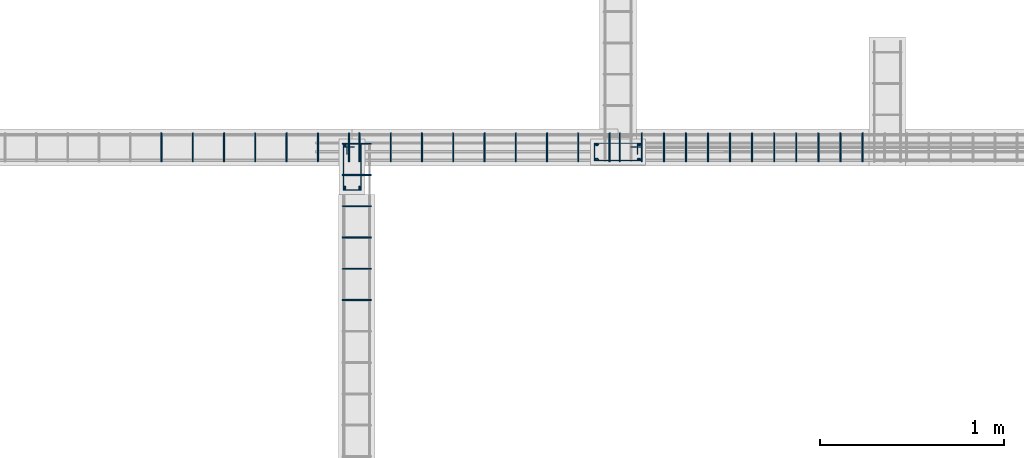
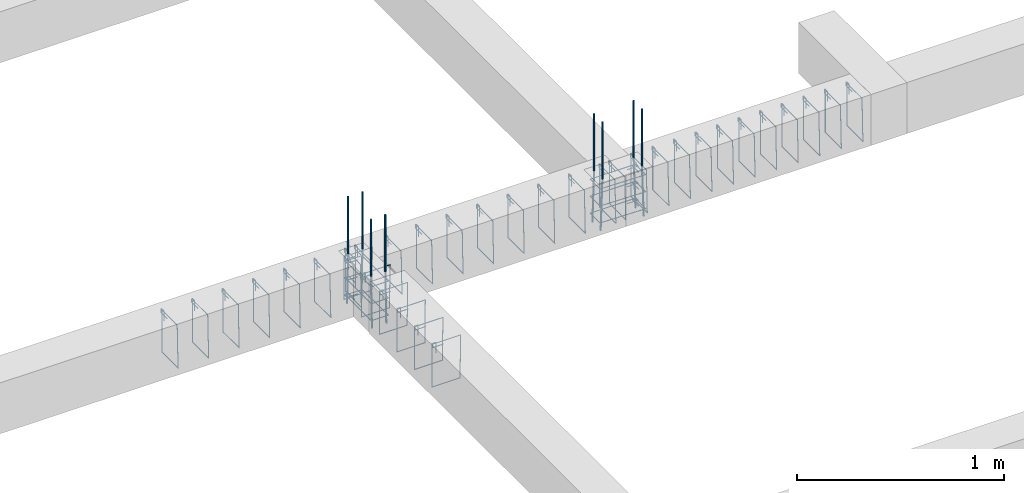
# One storey, part 86 of 150: 48 reinforcing bars.
"""IFC4 building model written with IfcOpenShell, lengths in centimetres."""

from ifc_helpers import new_model, entity, si_unit, derived_unit, frame, origin_with_axes, place, context, project, spatial, source, transform, mapped, element, save


model = new_model("IFC4")

# Units and contexts
model_context = context("Model", 3, precision=1e-05, world=origin_with_axes(), identifier="Body")
ifc_project = project(units=[si_unit("LENGTHUNIT", "METRE", prefix="CENTI"), si_unit("VOLUMEUNIT", "CUBIC_METRE"), si_unit("AREAUNIT", "SQUARE_METRE"), si_unit("POWERUNIT", "WATT"), si_unit("LUMINOUSFLUXUNIT", "LUMEN"), si_unit("ELECTRICCURRENTUNIT", "AMPERE"), si_unit("PRESSUREUNIT", "PASCAL", prefix="KILO"), si_unit("MASSUNIT", "GRAM", prefix="KILO"), si_unit("PLANEANGLEUNIT", "RADIAN"), derived_unit("VOLUMETRICFLOWRATEUNIT", [(si_unit("LENGTHUNIT", "METRE"), 3), (si_unit("TIMEUNIT", "SECOND"), -1)])], contexts=[model_context])

# Site, building, storey
site_placement = place(None, frame((-4000.0, 0.0, 0.0), z_axis=(0.0, 0.0, 1.0), x_axis=(1.0, 0.0, 0.0)))
site = spatial("IfcSite", under=ifc_project, at=site_placement, Name="PADRÃO")
building_placement = place(site_placement, frame((0.0, 0.0, -14.0)))
building = spatial("IfcBuilding", under=site, at=building_placement, Name="CRECHE PRÉ-ESCOLA TIPO 2")
placement = place(building_placement, origin_with_axes())
storey_placement = place(placement, frame((0.0, 0.0, 30.0), z_axis=(0.0, 0.0, 1.0), x_axis=(1.0, 0.0, 0.0)))
storey = spatial("IfcBuildingStorey", under=building, at=storey_placement, Name="VIGA BALDRAME", CompositionType="ELEMENT", Elevation=16.0)

# Reinforcing bars
shared_shape_1 = source(origin_with_axes(), model_context, "Body", "AdvancedSweptSolid", [
    entity("IfcSweptDiskSolid", entity("IfcCompositeCurve", [entity("IfcCompositeCurveSegment", "CONTINUOUS", True, entity("IfcPolyline", [entity("IfcCartesianPoint", [4.25, 21.75, 0.0]), entity("IfcCartesianPoint", [4.25, 27.75, 0.0])])), entity("IfcCompositeCurveSegment", "CONTINUOUS", True, entity("IfcPolyline", [entity("IfcCartesianPoint", [4.25, 27.75, 0.0]), entity("IfcCartesianPoint", [2.25, 27.75, 0.0])])), entity("IfcCompositeCurveSegment", "CONTINUOUS", True, entity("IfcPolyline", [entity("IfcCartesianPoint", [2.25, 27.75, 0.0]), entity("IfcCartesianPoint", [2.25, 2.25, 0.0])])), entity("IfcCompositeCurveSegment", "CONTINUOUS", True, entity("IfcPolyline", [entity("IfcCartesianPoint", [2.25, 2.25, 0.0]), entity("IfcCartesianPoint", [11.75, 2.25, 0.0])])), entity("IfcCompositeCurveSegment", "CONTINUOUS", True, entity("IfcPolyline", [entity("IfcCartesianPoint", [11.75, 2.25, 0.0]), entity("IfcCartesianPoint", [11.75, 27.75, -0.5])])), entity("IfcCompositeCurveSegment", "CONTINUOUS", True, entity("IfcPolyline", [entity("IfcCartesianPoint", [11.75, 27.75, -0.5]), entity("IfcCartesianPoint", [2.25, 27.75, -0.5])])), entity("IfcCompositeCurveSegment", "CONTINUOUS", True, entity("IfcPolyline", [entity("IfcCartesianPoint", [2.25, 27.75, -0.5]), entity("IfcCartesianPoint", [2.25, 25.75, -0.5])])), entity("IfcCompositeCurveSegment", "CONTINUOUS", True, entity("IfcPolyline", [entity("IfcCartesianPoint", [2.25, 25.75, -0.5]), entity("IfcCartesianPoint", [8.25, 25.75, -0.5])]))], False), 0.25),
])
for number, where, z_axis, x_axis, name in (
    (1, (2516.5, 3174.52, -25.0), (0.0, 0.0, 1.0), (1.0, 0.0, 0.0), "P53 - Estribo"),
    (2, (2516.5, 3174.52, -15.0), (0.0, 0.0, 1.0), (1.0, 0.0, 0.0), "P53 - Estribo"),
    (3, (2516.5, 3174.52, -5.0), (0.0, 0.0, 1.0), (1.0, 0.0, 0.0), "P53 - Estribo"),
):
    element("IfcReinforcingBar", number, at=place(storey_placement, frame(where, z_axis=z_axis, x_axis=x_axis)), inside=storey, Name=name, BarLength=0.0, CrossSectionArea=1.9634954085e-05, NominalDiameter=0.5, PredefinedType="MAIN", context=model_context, shape_type="MappedRepresentation", body=[
        mapped(shared_shape_1, transform((0.0, 0.0, 0.0), scale=1.0)),
    ])
shared_shape_2 = source(origin_with_axes(), model_context, "Body", "AdvancedSweptSolid", [
    entity("IfcSweptDiskSolid", entity("IfcCompositeCurve", [entity("IfcCompositeCurveSegment", "CONTINUOUS", True, entity("IfcPolyline", [entity("IfcCartesianPoint", [4.25, 21.75, 0.0]), entity("IfcCartesianPoint", [4.25, 27.75, 0.0])])), entity("IfcCompositeCurveSegment", "CONTINUOUS", True, entity("IfcPolyline", [entity("IfcCartesianPoint", [4.25, 27.75, 0.0]), entity("IfcCartesianPoint", [2.25, 27.75, 0.0])])), entity("IfcCompositeCurveSegment", "CONTINUOUS", True, entity("IfcPolyline", [entity("IfcCartesianPoint", [2.25, 27.75, 0.0]), entity("IfcCartesianPoint", [2.25, 2.25, 0.0])])), entity("IfcCompositeCurveSegment", "CONTINUOUS", True, entity("IfcPolyline", [entity("IfcCartesianPoint", [2.25, 2.25, 0.0]), entity("IfcCartesianPoint", [11.75, 2.25, 0.0])])), entity("IfcCompositeCurveSegment", "CONTINUOUS", True, entity("IfcPolyline", [entity("IfcCartesianPoint", [11.75, 2.25, 0.0]), entity("IfcCartesianPoint", [11.75, 27.75, -0.5])])), entity("IfcCompositeCurveSegment", "CONTINUOUS", True, entity("IfcPolyline", [entity("IfcCartesianPoint", [11.75, 27.75, -0.5]), entity("IfcCartesianPoint", [2.25, 27.75, -0.5])])), entity("IfcCompositeCurveSegment", "CONTINUOUS", True, entity("IfcPolyline", [entity("IfcCartesianPoint", [2.25, 27.75, -0.5]), entity("IfcCartesianPoint", [2.25, 25.75, -0.5])])), entity("IfcCompositeCurveSegment", "CONTINUOUS", True, entity("IfcPolyline", [entity("IfcCartesianPoint", [2.25, 25.75, -0.5]), entity("IfcCartesianPoint", [8.25, 25.75, -0.5])]))], False), 0.25),
])
for number, where, z_axis, x_axis, name in (
    (4, (2653.0, 3204.52, -25.0), (0.0, 0.0, 1.0), (0.0, -1.0, 0.0), "P54 - Estribo"),
    (5, (2653.0, 3204.52, -15.0), (0.0, 0.0, 1.0), (0.0, -1.0, 0.0), "P54 - Estribo"),
    (6, (2653.0, 3204.52, -5.0), (0.0, 0.0, 1.0), (0.0, -1.0, 0.0), "P54 - Estribo"),
):
    element("IfcReinforcingBar", number, at=place(storey_placement, frame(where, z_axis=z_axis, x_axis=x_axis)), inside=storey, Name=name, BarLength=0.0, CrossSectionArea=1.9634954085e-05, NominalDiameter=0.5, PredefinedType="MAIN", context=model_context, shape_type="MappedRepresentation", body=[
        mapped(shared_shape_2, transform((0.0, 0.0, 0.0), scale=1.0)),
    ])
shared_shape_3 = source(origin_with_axes(), model_context, "Body", "AdvancedSweptSolid", [
    entity("IfcSweptDiskSolid", entity("IfcCompositeCurve", [entity("IfcCompositeCurveSegment", "CONTINUOUS", True, entity("IfcPolyline", [entity("IfcCartesianPoint", [2.0, -6.0, 0.0]), entity("IfcCartesianPoint", [2.0, 0.0, 0.0])])), entity("IfcCompositeCurveSegment", "CONTINUOUS", True, entity("IfcPolyline", [entity("IfcCartesianPoint", [2.0, 0.0, 0.0]), entity("IfcCartesianPoint", [0.0, 0.0, 0.0])])), entity("IfcCompositeCurveSegment", "CONTINUOUS", True, entity("IfcPolyline", [entity("IfcCartesianPoint", [0.0, 0.0, 0.0]), entity("IfcCartesianPoint", [0.0, -25.5, 0.0])])), entity("IfcCompositeCurveSegment", "CONTINUOUS", True, entity("IfcPolyline", [entity("IfcCartesianPoint", [0.0, -25.5, 0.0]), entity("IfcCartesianPoint", [15.5, -25.5, 0.0])])), entity("IfcCompositeCurveSegment", "CONTINUOUS", True, entity("IfcPolyline", [entity("IfcCartesianPoint", [15.5, -25.5, 0.0]), entity("IfcCartesianPoint", [15.5, 0.0, 0.5])])), entity("IfcCompositeCurveSegment", "CONTINUOUS", True, entity("IfcPolyline", [entity("IfcCartesianPoint", [15.5, 0.0, 0.5]), entity("IfcCartesianPoint", [0.0, 0.0, 0.5])])), entity("IfcCompositeCurveSegment", "CONTINUOUS", True, entity("IfcPolyline", [entity("IfcCartesianPoint", [0.0, 0.0, 0.5]), entity("IfcCartesianPoint", [0.0, -2.0, 0.5])])), entity("IfcCompositeCurveSegment", "CONTINUOUS", True, entity("IfcPolyline", [entity("IfcCartesianPoint", [0.0, -2.0, 0.5]), entity("IfcCartesianPoint", [6.0, -2.0, 0.5])]))], False), 0.25),
])
for number, where, z_axis, x_axis, name in (
    (7, (2420.13, 3207.77, -2.25), (-1.0, 0.0, 0.0), (0.0, -1.0, 0.0), "V114 - Estribo"),
    (8, (2437.13, 3207.77, -2.25), (-1.0, 0.0, 0.0), (0.0, -1.0, 0.0), "V114 - Estribo"),
    (9, (2454.13, 3207.77, -2.25), (-1.0, 0.0, 0.0), (0.0, -1.0, 0.0), "V114 - Estribo"),
    (10, (2471.13, 3207.77, -2.25), (-1.0, 0.0, 0.0), (0.0, -1.0, 0.0), "V114 - Estribo"),
    (11, (2488.13, 3207.77, -2.25), (-1.0, 0.0, 0.0), (0.0, -1.0, 0.0), "V114 - Estribo"),
    (12, (2505.13, 3207.77, -2.25), (-1.0, 0.0, 0.0), (0.0, -1.0, 0.0), "V114 - Estribo"),
    (13, (2522.13, 3207.77, -2.25), (-1.0, 0.0, 0.0), (0.0, -1.0, 0.0), "V114 - Estribo"),
):
    element("IfcReinforcingBar", number, at=place(storey_placement, frame(where, z_axis=z_axis, x_axis=x_axis)), inside=storey, Name=name, BarLength=0.0, CrossSectionArea=1.9634954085e-05, NominalDiameter=0.5, PredefinedType="MAIN", context=model_context, shape_type="MappedRepresentation", body=[
        mapped(shared_shape_3, transform((0.0, 0.0, 0.0), scale=1.0)),
    ])
shared_shape_4 = source(origin_with_axes(), model_context, "Body", "AdvancedSweptSolid", [
    entity("IfcSweptDiskSolid", entity("IfcCompositeCurve", [entity("IfcCompositeCurveSegment", "CONTINUOUS", True, entity("IfcPolyline", [entity("IfcCartesianPoint", [2.0, -6.0, 0.0]), entity("IfcCartesianPoint", [2.0, 0.0, 0.0])])), entity("IfcCompositeCurveSegment", "CONTINUOUS", True, entity("IfcPolyline", [entity("IfcCartesianPoint", [2.0, 0.0, 0.0]), entity("IfcCartesianPoint", [0.0, 0.0, 0.0])])), entity("IfcCompositeCurveSegment", "CONTINUOUS", True, entity("IfcPolyline", [entity("IfcCartesianPoint", [0.0, 0.0, 0.0]), entity("IfcCartesianPoint", [0.0, -25.5, 0.0])])), entity("IfcCompositeCurveSegment", "CONTINUOUS", True, entity("IfcPolyline", [entity("IfcCartesianPoint", [0.0, -25.5, 0.0]), entity("IfcCartesianPoint", [15.5, -25.5, 0.0])])), entity("IfcCompositeCurveSegment", "CONTINUOUS", True, entity("IfcPolyline", [entity("IfcCartesianPoint", [15.5, -25.5, 0.0]), entity("IfcCartesianPoint", [15.5, 0.0, 0.5])])), entity("IfcCompositeCurveSegment", "CONTINUOUS", True, entity("IfcPolyline", [entity("IfcCartesianPoint", [15.5, 0.0, 0.5]), entity("IfcCartesianPoint", [0.0, 0.0, 0.5])])), entity("IfcCompositeCurveSegment", "CONTINUOUS", True, entity("IfcPolyline", [entity("IfcCartesianPoint", [0.0, 0.0, 0.5]), entity("IfcCartesianPoint", [0.0, -2.0, 0.5])])), entity("IfcCompositeCurveSegment", "CONTINUOUS", True, entity("IfcPolyline", [entity("IfcCartesianPoint", [0.0, -2.0, 0.5]), entity("IfcCartesianPoint", [6.0, -2.0, 0.5])]))], False), 0.25),
])
for number, where, z_axis, x_axis, name in (
    (14, (2646.75, 3207.77, -2.25), (-1.0, 0.0, 0.0), (0.0, -1.0, 0.0), "V114 - Estribo"),
    (15, (2663.75, 3207.77, -2.25), (-1.0, 0.0, 0.0), (0.0, -1.0, 0.0), "V114 - Estribo"),
    (16, (2629.75, 3207.77, -2.25), (-1.0, 0.0, 0.0), (0.0, -1.0, 0.0), "V114 - Estribo"),
    (17, (2612.75, 3207.77, -2.25), (-1.0, 0.0, 0.0), (0.0, -1.0, 0.0), "V114 - Estribo"),
    (18, (2595.75, 3207.77, -2.25), (-1.0, 0.0, 0.0), (0.0, -1.0, 0.0), "V114 - Estribo"),
    (19, (2578.75, 3207.77, -2.25), (-1.0, 0.0, 0.0), (0.0, -1.0, 0.0), "V114 - Estribo"),
    (20, (2561.75, 3207.77, -2.25), (-1.0, 0.0, 0.0), (0.0, -1.0, 0.0), "V114 - Estribo"),
    (21, (2544.75, 3207.77, -2.25), (-1.0, 0.0, 0.0), (0.0, -1.0, 0.0), "V114 - Estribo"),
    (22, (2527.75, 3207.77, -2.25), (-1.0, 0.0, 0.0), (0.0, -1.0, 0.0), "V114 - Estribo"),
):
    element("IfcReinforcingBar", number, at=place(storey_placement, frame(where, z_axis=z_axis, x_axis=x_axis)), inside=storey, Name=name, BarLength=0.0, CrossSectionArea=1.9634954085e-05, NominalDiameter=0.5, PredefinedType="MAIN", context=model_context, shape_type="MappedRepresentation", body=[
        mapped(shared_shape_4, transform((0.0, 0.0, 0.0), scale=1.0)),
    ])
shared_shape_5 = source(origin_with_axes(), model_context, "Body", "AdvancedSweptSolid", [
    entity("IfcSweptDiskSolid", entity("IfcCompositeCurve", [entity("IfcCompositeCurveSegment", "CONTINUOUS", True, entity("IfcPolyline", [entity("IfcCartesianPoint", [2.0, -6.0, 0.0]), entity("IfcCartesianPoint", [2.0, 0.0, 0.0])])), entity("IfcCompositeCurveSegment", "CONTINUOUS", True, entity("IfcPolyline", [entity("IfcCartesianPoint", [2.0, 0.0, 0.0]), entity("IfcCartesianPoint", [0.0, 0.0, 0.0])])), entity("IfcCompositeCurveSegment", "CONTINUOUS", True, entity("IfcPolyline", [entity("IfcCartesianPoint", [0.0, 0.0, 0.0]), entity("IfcCartesianPoint", [0.0, -25.5, 0.0])])), entity("IfcCompositeCurveSegment", "CONTINUOUS", True, entity("IfcPolyline", [entity("IfcCartesianPoint", [0.0, -25.5, 0.0]), entity("IfcCartesianPoint", [15.5, -25.5, 0.0])])), entity("IfcCompositeCurveSegment", "CONTINUOUS", True, entity("IfcPolyline", [entity("IfcCartesianPoint", [15.5, -25.5, 0.0]), entity("IfcCartesianPoint", [15.5, 0.0, 0.5])])), entity("IfcCompositeCurveSegment", "CONTINUOUS", True, entity("IfcPolyline", [entity("IfcCartesianPoint", [15.5, 0.0, 0.5]), entity("IfcCartesianPoint", [0.0, 0.0, 0.5])])), entity("IfcCompositeCurveSegment", "CONTINUOUS", True, entity("IfcPolyline", [entity("IfcCartesianPoint", [0.0, 0.0, 0.5]), entity("IfcCartesianPoint", [0.0, -2.0, 0.5])])), entity("IfcCompositeCurveSegment", "CONTINUOUS", True, entity("IfcPolyline", [entity("IfcCartesianPoint", [0.0, -2.0, 0.5]), entity("IfcCartesianPoint", [6.0, -2.0, 0.5])]))], False), 0.25),
])
for number, where, z_axis, x_axis, name in (
    (23, (2669.25, 3207.77, -2.25), (-1.0, 0.0, 0.0), (0.0, -1.0, 0.0), "V114 - Estribo"),
    (24, (2693.25, 3207.77, -2.25), (-1.0, 0.0, 0.0), (0.0, -1.0, 0.0), "V114 - Estribo"),
    (25, (2681.25, 3207.77, -2.25), (-1.0, 0.0, 0.0), (0.0, -1.0, 0.0), "V114 - Estribo"),
    (26, (2801.25, 3207.77, -2.25), (-1.0, 0.0, 0.0), (0.0, -1.0, 0.0), "V114 - Estribo"),
    (27, (2789.25, 3207.77, -2.25), (-1.0, 0.0, 0.0), (0.0, -1.0, 0.0), "V114 - Estribo"),
    (28, (2777.25, 3207.77, -2.25), (-1.0, 0.0, 0.0), (0.0, -1.0, 0.0), "V114 - Estribo"),
    (29, (2765.25, 3207.77, -2.25), (-1.0, 0.0, 0.0), (0.0, -1.0, 0.0), "V114 - Estribo"),
    (30, (2753.25, 3207.77, -2.25), (-1.0, 0.0, 0.0), (0.0, -1.0, 0.0), "V114 - Estribo"),
    (31, (2741.25, 3207.77, -2.25), (-1.0, 0.0, 0.0), (0.0, -1.0, 0.0), "V114 - Estribo"),
    (32, (2729.25, 3207.77, -2.25), (-1.0, 0.0, 0.0), (0.0, -1.0, 0.0), "V114 - Estribo"),
    (33, (2717.25, 3207.77, -2.25), (-1.0, 0.0, 0.0), (0.0, -1.0, 0.0), "V114 - Estribo"),
    (34, (2705.25, 3207.77, -2.25), (-1.0, 0.0, 0.0), (0.0, -1.0, 0.0), "V114 - Estribo"),
):
    element("IfcReinforcingBar", number, at=place(storey_placement, frame(where, z_axis=z_axis, x_axis=x_axis)), inside=storey, Name=name, BarLength=0.0, CrossSectionArea=1.9634954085e-05, NominalDiameter=0.5, PredefinedType="MAIN", context=model_context, shape_type="MappedRepresentation", body=[
        mapped(shared_shape_5, transform((0.0, 0.0, 0.0), scale=1.0)),
    ])
shared_shape_6 = source(origin_with_axes(), model_context, "Body", "AdvancedSweptSolid", [
    entity("IfcSweptDiskSolid", entity("IfcCompositeCurve", [entity("IfcCompositeCurveSegment", "CONTINUOUS", True, entity("IfcPolyline", [entity("IfcCartesianPoint", [2.0, -6.0, 0.0]), entity("IfcCartesianPoint", [2.0, 0.0, 0.0])])), entity("IfcCompositeCurveSegment", "CONTINUOUS", True, entity("IfcPolyline", [entity("IfcCartesianPoint", [2.0, 0.0, 0.0]), entity("IfcCartesianPoint", [0.0, 0.0, 0.0])])), entity("IfcCompositeCurveSegment", "CONTINUOUS", True, entity("IfcPolyline", [entity("IfcCartesianPoint", [0.0, 0.0, 0.0]), entity("IfcCartesianPoint", [0.0, -25.5, 0.0])])), entity("IfcCompositeCurveSegment", "CONTINUOUS", True, entity("IfcPolyline", [entity("IfcCartesianPoint", [0.0, -25.5, 0.0]), entity("IfcCartesianPoint", [15.5, -25.5, 0.0])])), entity("IfcCompositeCurveSegment", "CONTINUOUS", True, entity("IfcPolyline", [entity("IfcCartesianPoint", [15.5, -25.5, 0.0]), entity("IfcCartesianPoint", [15.5, 0.0, 0.5])])), entity("IfcCompositeCurveSegment", "CONTINUOUS", True, entity("IfcPolyline", [entity("IfcCartesianPoint", [15.5, 0.0, 0.5]), entity("IfcCartesianPoint", [0.0, 0.0, 0.5])])), entity("IfcCompositeCurveSegment", "CONTINUOUS", True, entity("IfcPolyline", [entity("IfcCartesianPoint", [0.0, 0.0, 0.5]), entity("IfcCartesianPoint", [0.0, -2.0, 0.5])])), entity("IfcCompositeCurveSegment", "CONTINUOUS", True, entity("IfcPolyline", [entity("IfcCartesianPoint", [0.0, -2.0, 0.5]), entity("IfcCartesianPoint", [6.0, -2.0, 0.5])]))], False), 0.25),
])
for number, where, z_axis, x_axis, name in (
    (35, (2518.25, 3117.27, -2.25), (0.0, -1.0, 0.0), (1.0, 0.0, 0.0), "V198 - Estribo"),
    (36, (2518.25, 3151.27, -2.25), (0.0, -1.0, 0.0), (1.0, 0.0, 0.0), "V198 - Estribo"),
    (37, (2518.25, 3185.27, -2.25), (0.0, -1.0, 0.0), (1.0, 0.0, 0.0), "V198 - Estribo"),
    (38, (2518.25, 3168.27, -2.25), (0.0, -1.0, 0.0), (1.0, 0.0, 0.0), "V198 - Estribo"),
    (39, (2518.25, 3202.27, -2.25), (0.0, -1.0, 0.0), (1.0, 0.0, 0.0), "V198 - Estribo"),
    (40, (2518.25, 3134.27, -2.25), (0.0, -1.0, 0.0), (1.0, 0.0, 0.0), "V198 - Estribo"),
):
    element("IfcReinforcingBar", number, at=place(storey_placement, frame(where, z_axis=z_axis, x_axis=x_axis)), inside=storey, Name=name, BarLength=0.0, CrossSectionArea=1.9634954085e-05, NominalDiameter=0.5, PredefinedType="MAIN", context=model_context, shape_type="MappedRepresentation", body=[
        mapped(shared_shape_6, transform((0.0, 0.0, 0.0), scale=1.0)),
    ])
for number, where, z_axis, x_axis, name in (
    (41, (2519.5, 3178.02013877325, 33.3573001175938), (0.0, 0.0, 1.0), (1.0, 0.0, 0.0), "P53 - Longitudinal"),
    (42, (2527.5, 3178.02013877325, 33.3573001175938), (0.0, 0.0, 1.0), (1.0, 0.0, 0.0), "P53 - Longitudinal"),
):
    element("IfcReinforcingBar", number, at=place(storey_placement, frame(where, z_axis=z_axis, x_axis=x_axis)), inside=storey, Name=name, BarLength=0.0, CrossSectionArea=7.853981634e-05, NominalDiameter=1.0, PredefinedType="MAIN", context=model_context, shape_type="AdvancedSweptSolid", body=[
        entity("IfcSweptDiskSolid", entity("IfcCompositeCurve", [entity("IfcCompositeCurveSegment", "CONTINUOUS", True, entity("IfcPolyline", [entity("IfcCartesianPoint", [0.0, -0.500138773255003, -63.3573001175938]), entity("IfcCartesianPoint", [0.0, 0.499861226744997, -33.3573001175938])])), entity("IfcCompositeCurveSegment", "CONTINUOUS", True, entity("IfcPolyline", [entity("IfcCartesianPoint", [0.0, 0.499861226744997, -33.3573001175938]), entity("IfcCartesianPoint", [0.0, 0.499861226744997, 0.0])]))], False), 0.5),
    ])
for number, where, z_axis, x_axis, name in (
    (43, (2527.5, 3201.01986122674, 33.3573001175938), (0.0, 0.0, 1.0), (1.0, 0.0, 0.0), "P53 - Longitudinal"),
    (44, (2519.5, 3201.01986122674, 33.3573001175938), (0.0, 0.0, 1.0), (1.0, 0.0, 0.0), "P53 - Longitudinal"),
):
    element("IfcReinforcingBar", number, at=place(storey_placement, frame(where, z_axis=z_axis, x_axis=x_axis)), inside=storey, Name=name, BarLength=0.0, CrossSectionArea=7.853981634e-05, NominalDiameter=1.0, PredefinedType="MAIN", context=model_context, shape_type="AdvancedSweptSolid", body=[
        entity("IfcSweptDiskSolid", entity("IfcCompositeCurve", [entity("IfcCompositeCurveSegment", "CONTINUOUS", True, entity("IfcPolyline", [entity("IfcCartesianPoint", [0.0, 0.500138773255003, -63.3573001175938]), entity("IfcCartesianPoint", [0.0, -0.499861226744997, -33.3573001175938])])), entity("IfcCompositeCurveSegment", "CONTINUOUS", True, entity("IfcPolyline", [entity("IfcCartesianPoint", [0.0, -0.499861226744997, -33.3573001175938]), entity("IfcCartesianPoint", [0.0, -0.499861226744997, 0.0])]))], False), 0.5),
    ])
reinforcing_bar_1_placement = place(storey_placement, frame((2656.50013877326, 3193.52, 33.3573001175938), z_axis=(0.0, 0.0, 1.0), x_axis=(1.0, 0.0, 0.0)))
element("IfcReinforcingBar", 45, at=reinforcing_bar_1_placement, inside=storey, Name="P54 - Longitudinal", BarLength=0.0, CrossSectionArea=7.853981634e-05, NominalDiameter=1.0, PredefinedType="MAIN", context=model_context, shape_type="AdvancedSweptSolid", body=[
    entity("IfcSweptDiskSolid", entity("IfcCompositeCurve", [entity("IfcCompositeCurveSegment", "CONTINUOUS", True, entity("IfcPolyline", [entity("IfcCartesianPoint", [-0.500138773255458, 0.0, -63.3573001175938]), entity("IfcCartesianPoint", [0.499861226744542, 0.0, -33.3573001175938])])), entity("IfcCompositeCurveSegment", "CONTINUOUS", True, entity("IfcPolyline", [entity("IfcCartesianPoint", [0.499861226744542, 0.0, -33.3573001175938]), entity("IfcCartesianPoint", [0.499861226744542, 0.0, 0.0])]))], False), 0.5),
])
for number, where, z_axis, x_axis, name in (
    (46, (2679.49986122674, 3201.52, 33.3573001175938), (0.0, 0.0, 1.0), (1.0, 0.0, 0.0), "P54 - Longitudinal"),
    (47, (2679.49986122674, 3193.52, 33.3573001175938), (0.0, 0.0, 1.0), (1.0, 0.0, 0.0), "P54 - Longitudinal"),
):
    element("IfcReinforcingBar", number, at=place(storey_placement, frame(where, z_axis=z_axis, x_axis=x_axis)), inside=storey, Name=name, BarLength=0.0, CrossSectionArea=7.853981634e-05, NominalDiameter=1.0, PredefinedType="MAIN", context=model_context, shape_type="AdvancedSweptSolid", body=[
        entity("IfcSweptDiskSolid", entity("IfcCompositeCurve", [entity("IfcCompositeCurveSegment", "CONTINUOUS", True, entity("IfcPolyline", [entity("IfcCartesianPoint", [0.500138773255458, 0.0, -63.3573001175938]), entity("IfcCartesianPoint", [-0.499861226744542, 0.0, -33.3573001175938])])), entity("IfcCompositeCurveSegment", "CONTINUOUS", True, entity("IfcPolyline", [entity("IfcCartesianPoint", [-0.499861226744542, 0.0, -33.3573001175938]), entity("IfcCartesianPoint", [-0.499861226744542, 0.0, 0.0])]))], False), 0.5),
    ])
reinforcing_bar_2_placement = place(storey_placement, frame((2656.50013877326, 3201.52, 33.3573001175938), z_axis=(0.0, 0.0, 1.0), x_axis=(1.0, 0.0, 0.0)))
element("IfcReinforcingBar", 48, at=reinforcing_bar_2_placement, inside=storey, Name="P54 - Longitudinal", BarLength=0.0, CrossSectionArea=7.853981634e-05, NominalDiameter=1.0, PredefinedType="MAIN", context=model_context, shape_type="AdvancedSweptSolid", body=[
    entity("IfcSweptDiskSolid", entity("IfcCompositeCurve", [entity("IfcCompositeCurveSegment", "CONTINUOUS", True, entity("IfcPolyline", [entity("IfcCartesianPoint", [-0.500138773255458, 0.0, -63.3573001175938]), entity("IfcCartesianPoint", [0.499861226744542, 0.0, -33.3573001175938])])), entity("IfcCompositeCurveSegment", "CONTINUOUS", True, entity("IfcPolyline", [entity("IfcCartesianPoint", [0.499861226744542, 0.0, -33.3573001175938]), entity("IfcCartesianPoint", [0.499861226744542, 0.0, 0.0])]))], False), 0.5),
])

save(model, "model.ifc")
